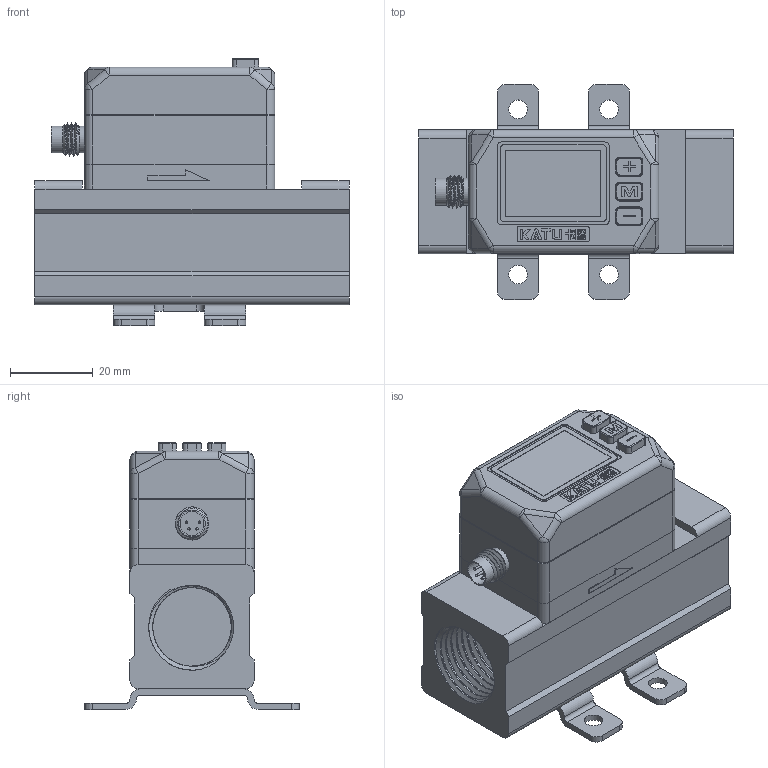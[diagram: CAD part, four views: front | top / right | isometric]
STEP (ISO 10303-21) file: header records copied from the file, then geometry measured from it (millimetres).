
FILE_DESCRIPTION( (''), '2;1');
FILE_NAME( 'QGKN_G1-2.step', '2025-06-24T11:12:56+08:00', (''), (''), '', '', '');
FILE_SCHEMA (('AUTOMOTIVE_DESIGN { 1 0 10303 214 3 1 1 1 }'));
Length unit declared in the file: millimetre
Products named in the file (1): QGKN G1-2
Bounding box: 76 x 52 x 64.6 mm (x, y, z)
Volume: 36559.2 mm3; surface area: 34207.2 mm2
Topology: 4 solids, 25 shells, 917 faces, 2334 edges, 1533 vertices
Faces by surface type: plane 490, cylinder 210, extrusion 170, sphere 16, torus 16, cone 9, bspline 6
Full cylindrical faces by diameter (mm): 0.6 x4, 1.2 x3, 1.5 x8, 2 x6, 2.05 x4, 2.5 x4, 3 x8, 3.5 x4, 4.5 x4, 5 x4, 5.8 x1, 6.5 x2, 19 x13, 20 x2
Entity records: 35809 total; most frequent: CARTESIAN_POINT 11638, ORIENTED_EDGE 4354, DIRECTION 3859, EDGE_CURVE 2177, VECTOR 1557, VERTEX_POINT 1461, LINE 1387, AXIS2_PLACEMENT_3D 1151
